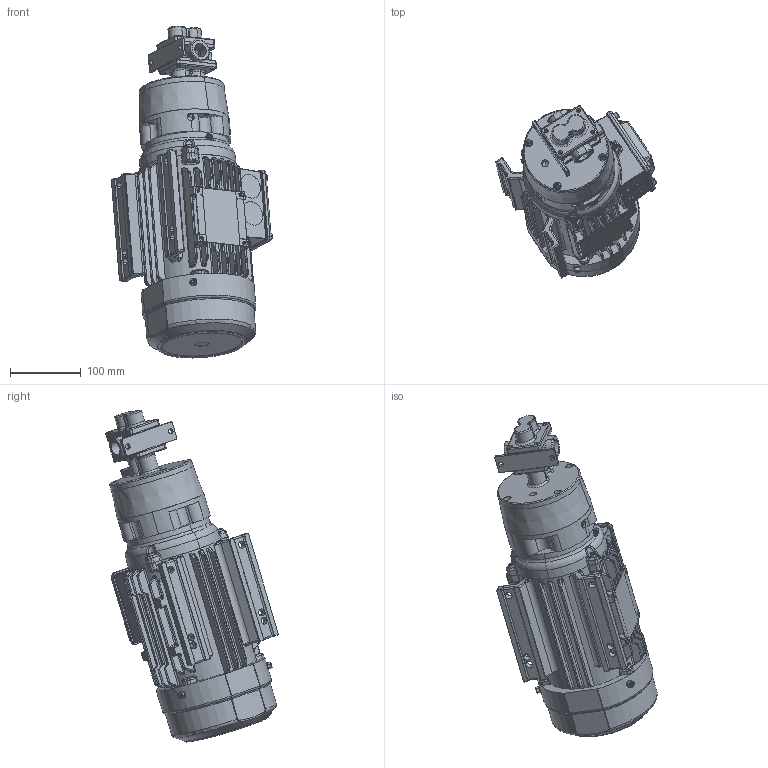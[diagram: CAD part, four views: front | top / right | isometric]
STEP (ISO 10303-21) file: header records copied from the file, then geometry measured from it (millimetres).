
FILE_DESCRIPTION (( 'STEP AP214' ), '1' );
FILE_NAME ('GMC4 FNPT IEC80 MOTOR.STEP', '2025-08-29T17:45:36', ( '' ), ( '' ), 'SwSTEP 2.0', 'SolidWorks 2024', '' );
FILE_SCHEMA (( 'AUTOMOTIVE_DESIGN' ));
Length unit declared in the file: inch
Products named in the file (1): GMC4 FNPT IEC80 MOTOR
Bounding box: 227.33 x 243.32 x 468.5 mm (x, y, z)
Volume: 5792109.8 mm3; surface area: 475183 mm2
Topology: 6 solids, 26 shells, 2835 faces, 6841 edges, 3979 vertices
Faces by surface type: cylinder 1113, plane 694, bspline 518, torus 222, cone 191, sphere 97
Entity records: 96363 total; most frequent: CARTESIAN_POINT 34018, ORIENTED_EDGE 13376, DIRECTION 12818, EDGE_CURVE 6688, AXIS2_PLACEMENT_3D 5121, VERTEX_POINT 3979, EDGE_LOOP 3047, ADVANCED_FACE 2835
